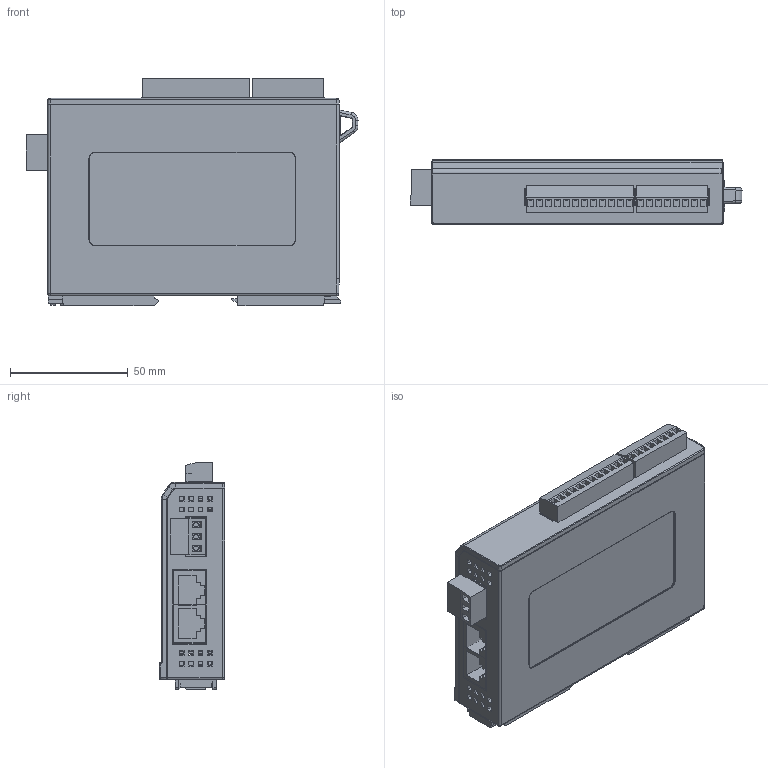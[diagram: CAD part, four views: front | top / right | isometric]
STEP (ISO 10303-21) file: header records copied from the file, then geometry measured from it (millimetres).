
FILE_DESCRIPTION((''),'2;1');
FILE_NAME('PRT0001','2011-02-17T',('Sam_Liu'),(''),'PRO/ENGINEER BY PARAMETRIC TECHNOLOGY CORPORATION, 2004320','PRO/ENGINEER BY PARAMETRIC TECHNOLOGY CORPORATION, 2004320','');
FILE_SCHEMA(('CONFIG_CONTROL_DESIGN'));
Products named in the file (1): PRT0001
Bounding box: 141.25 x 27.8 x 96.8 mm (x, y, z)
Volume: 123398.8 mm3; surface area: 129080.1 mm2
Topology: 18 solids, 69 shells, 2385 faces, 5944 edges, 3896 vertices
Faces by surface type: plane 1586, cylinder 668, torus 58, cone 33, bspline 20, sphere 20
Entity records: 72039 total; most frequent: CARTESIAN_POINT 14066, DIRECTION 11915, ORIENTED_EDGE 11790, EDGE_CURVE 5927, VECTOR 4263, LINE 4263, VERTEX_POINT 3896, AXIS2_PLACEMENT_3D 3826
